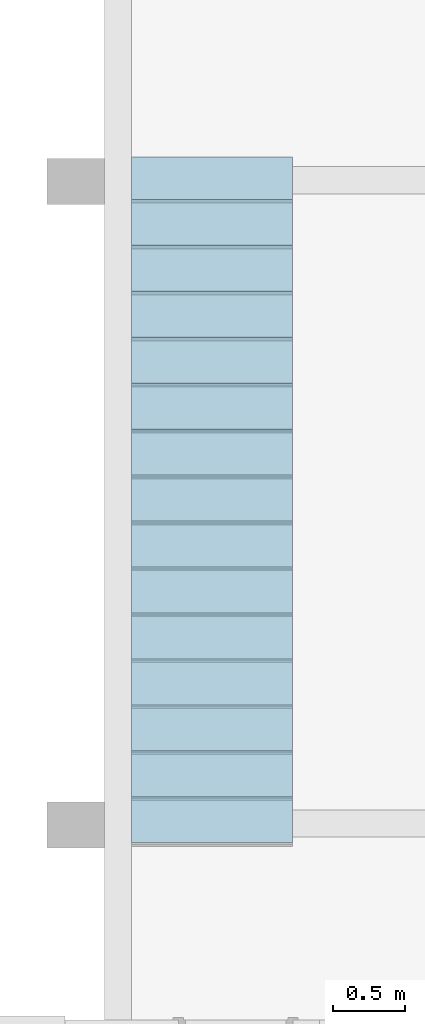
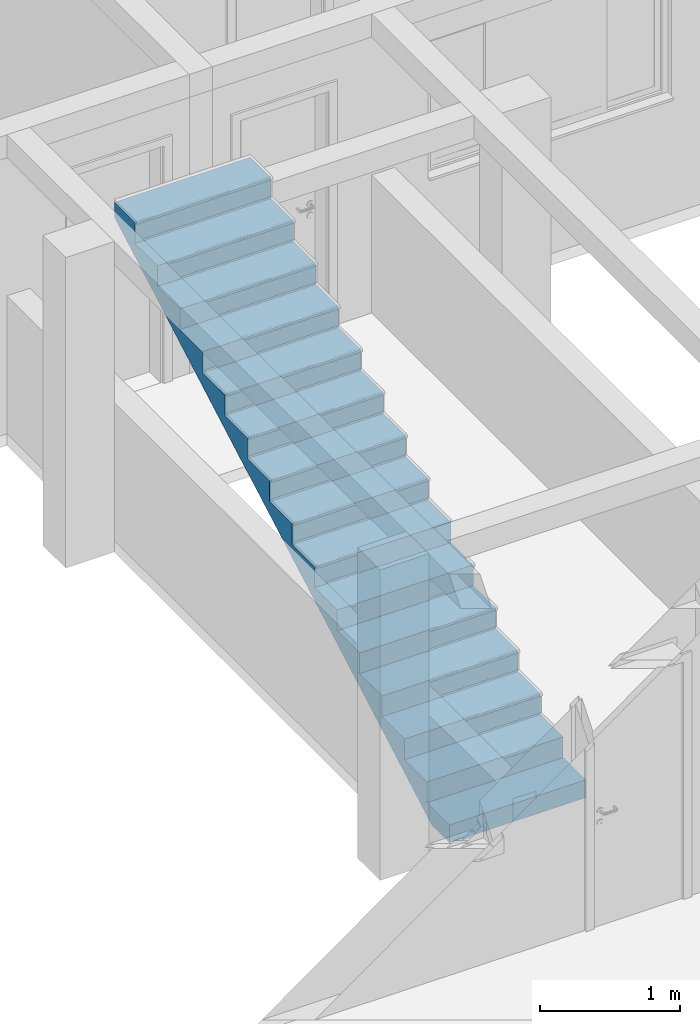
# One storey, part 43 of 43: 1 stair flight, 1 element without a shape of its own.
"""IFC2X3 building model written with IfcOpenShell, lengths in millimetres."""

from ifc_helpers import new_model, entity, si_unit, converted_unit, derived_unit, money_unit, direction, frame, origin_with_axes, place, context, subcontext, project, spatial, faceted_brep, material, type_object, element, aggregate, save


model = new_model("IFC2X3")

# Units and contexts
model_context = context("Model", 3, precision=0.01, world=origin_with_axes(), true_north=direction((0.0, 1.0)))
body_context = subcontext(model_context, "Body", "Model", "MODEL_VIEW")
ifc_project = project(units=[si_unit("LENGTHUNIT", "METRE", prefix="MILLI"), si_unit("AREAUNIT", "SQUARE_METRE"), si_unit("VOLUMEUNIT", "CUBIC_METRE"), converted_unit("PLANEANGLEUNIT", "DEGREE", entity("IfcPlaneAngleMeasure", 0.0174532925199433), si_unit("PLANEANGLEUNIT", "RADIAN"), dimensions=[0, 0, 0, 0, 0, 0, 0]), money_unit("USD"), converted_unit("TIMEUNIT", "Year", entity("IfcTimeMeasure", 31557600.0), si_unit("TIMEUNIT", "SECOND"), dimensions=[0, 0, 1, 0, 0, 0, 0]), si_unit("MASSUNIT", "GRAM", prefix="KILO"), si_unit("THERMODYNAMICTEMPERATUREUNIT", "DEGREE_CELSIUS"), si_unit("LUMINOUSINTENSITYUNIT", "LUMEN"), si_unit("ENERGYUNIT", "JOULE", prefix="MEGA"), derived_unit("THERMALCONDUCTANCEUNIT", [(si_unit("POWERUNIT", "WATT"), 1), (si_unit("LENGTHUNIT", "METRE"), -1), (si_unit("THERMODYNAMICTEMPERATUREUNIT", "KELVIN"), -1)]), derived_unit("SPECIFICHEATCAPACITYUNIT", [(si_unit("ENERGYUNIT", "JOULE"), 1), (si_unit("MASSUNIT", "GRAM", prefix="KILO"), -1), (si_unit("THERMODYNAMICTEMPERATUREUNIT", "KELVIN"), -1)]), derived_unit("MASSDENSITYUNIT", [(si_unit("MASSUNIT", "GRAM", prefix="KILO"), 1), (si_unit("VOLUMEUNIT", "CUBIC_METRE"), -1)])], contexts=[model_context])

# Site, building, storey
site_placement = place(None, origin_with_axes())
site = spatial("IfcSite", under=ifc_project, at=site_placement, Name="Local", CompositionType="ELEMENT")
building_placement = place(site_placement, origin_with_axes())
building = spatial("IfcBuilding", under=site, at=building_placement, Name="Construção", CompositionType="ELEMENT")
storey_placement = place(building_placement, origin_with_axes())
storey = spatial("IfcBuildingStorey", under=building, at=storey_placement, Name="Pavimento Tipo", CompositionType="ELEMENT", Elevation=0.0)

# Stair, stair flight
stair_placement = place(storey_placement, frame((62392.434598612, -357.5384792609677, 0.0), z_axis=(0.0, 0.0, 1.0), x_axis=(1.0, 0.0, 0.0)))
stair = element("IfcStair", 1, at=stair_placement, inside=storey, Name="NúcleoEscada - 001", ShapeType="NOTDEFINED")
ifc_material = material(Name="Concreto - Estrutural")
stair_flight_type = type_object("IfcStairFlightType", Name="IfcStairFlight", PredefinedType="NOTDEFINED")
stair_flight_placement = place(stair_placement, origin_with_axes())
stair_flight = element("IfcStairFlight", 2, at=stair_flight_placement, type_object=stair_flight_type, material=ifc_material, Name="NúcleoLance - 002", context=body_context, shape_type="Brep", body=[
    faceted_brep([(1120.0, 4640.000000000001, 2456.146501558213), (1120.0, 4720.0, 2501.146501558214), (1120.0, 4800.0, 2546.146501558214), (1120.0, 4800.0, 2675.0), (1120.0, 4505.1, 2675.0), (1120.0, 4505.1, 2495.0), (1120.0, 4185.1, 2495.0), (1120.0, 4185.1, 2315.0), (1120.0, 3865.1, 2315.0), (1120.0, 3865.1, 2135.0), (1120.0, 3545.1, 2135.0), (1120.0, 3545.1, 1955.0), (1120.0, 3225.100000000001, 1955.0), (1120.0, 3225.100000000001, 1775.0), (1120.0, 2905.1, 1775.0), (1120.0, 2905.1, 1595.0), (1120.0, 2585.1, 1595.0), (1120.0, 2585.1, 1415.0), (1120.0, 2265.1, 1415.0), (1120.0, 2265.1, 1235.0), (1120.0, 1945.1, 1235.0), (1120.0, 1945.1, 1055.0), (1120.0, 1625.1, 1055.0), (1120.0, 1625.1, 875.0), (1120.0, 1305.1, 875.0), (1120.0, 1305.1, 695.0000000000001), (1120.0, 985.1000000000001, 695.0000000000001), (1120.0, 985.1000000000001, 515.0000000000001), (1120.0, 665.0999999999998, 515.0000000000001), (1120.0, 665.0999999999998, 334.9999999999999), (1120.0, 345.1000000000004, 334.9999999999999), (1120.0, 345.1000000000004, 155.0000000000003), (1120.0, 25.10000000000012, 155.0000000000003), (1120.0, 25.10000000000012, 0.0), (1120.0, 273.517330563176, 0.0), (1120.0, 320.0000000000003, 26.14650155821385), (1120.0, 400.0000000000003, 71.14650155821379), (1120.0, 480.0, 116.1465015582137), (1120.0, 559.9999999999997, 161.1465015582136), (1120.0, 639.9999999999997, 206.1465015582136), (1120.0, 719.9999999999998, 251.1465015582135), (1120.0, 799.9999999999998, 296.1465015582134), (1120.0, 879.9999999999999, 341.1465015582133), (1120.0, 960.0, 386.1465015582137), (1120.0, 1040.0, 431.1465015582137), (1120.0, 1120.0, 476.1465015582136), (1120.0, 1200.0, 521.1465015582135), (1120.0, 1280.0, 566.1465015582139), (1120.0, 1360.0, 611.1465015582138), (1120.0, 1440.0, 656.1465015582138), (1120.0, 1520.0, 701.1465015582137), (1120.0, 1600.0, 746.1465015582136), (1120.0, 1680.0, 791.1465015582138), (1120.0, 1760.0, 836.1465015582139), (1120.0, 1840.0, 881.1465015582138), (1120.0, 1920.0, 926.1465015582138), (1120.0, 2000.0, 971.1465015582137), (1120.0, 2080.0, 1016.146501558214), (1120.0, 2160.0, 1061.146501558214), (1120.0, 2240.0, 1106.146501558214), (1120.0, 2320.0, 1151.146501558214), (1120.0, 2400.0, 1196.146501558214), (1120.0, 2480.0, 1241.146501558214), (1120.0, 2560.0, 1286.146501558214), (1120.0, 2640.0, 1331.146501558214), (1120.0, 2720.0, 1376.146501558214), (1120.0, 2800.0, 1421.146501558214), (1120.0, 2880.0, 1466.146501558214), (1120.0, 2960.0, 1511.146501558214), (1120.0, 3040.0, 1556.146501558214), (1120.0, 3120.0, 1601.146501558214), (1120.0, 3200.0, 1646.146501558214), (1120.0, 3280.000000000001, 1691.146501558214), (1120.0, 3360.0, 1736.146501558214), (1120.0, 3440.0, 1781.146501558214), (1120.0, 3520.0, 1826.146501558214), (1120.0, 3599.999999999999, 1871.146501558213), (1120.0, 3680.0, 1916.146501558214), (1120.0, 3760.0, 1961.146501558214), (1120.0, 3840.0, 2006.146501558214), (1120.0, 3920.0, 2051.146501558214), (1120.0, 4000.0, 2096.146501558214), (1120.0, 4080.0, 2141.146501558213), (1120.0, 4160.0, 2186.146501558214), (1120.0, 4240.0, 2231.146501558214), (1120.0, 4320.0, 2276.146501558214), (1120.0, 4400.0, 2321.146501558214), (1120.0, 4480.0, 2366.146501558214), (1120.0, 4560.000000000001, 2411.146501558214), (0.0, 4720.0, 2501.146501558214), (0.0, 4640.000000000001, 2456.146501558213), (0.0, 4800.0, 2546.146501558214), (0.0, 4800.0, 2675.0), (0.0, 4505.1, 2675.0), (0.0, 4505.1, 2495.0), (0.0, 4185.1, 2495.0), (0.0, 4185.1, 2315.0), (0.0, 3865.1, 2315.0), (0.0, 3865.1, 2135.0), (0.0, 3545.1, 2135.0), (0.0, 3545.1, 1955.0), (0.0, 3225.100000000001, 1955.0), (0.0, 3225.100000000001, 1775.0), (0.0, 2905.1, 1775.0), (0.0, 2905.1, 1595.0), (0.0, 2585.1, 1595.0), (0.0, 2585.1, 1415.0), (0.0, 2265.1, 1415.0), (0.0, 2265.1, 1235.0), (0.0, 1945.1, 1235.0), (0.0, 1945.1, 1055.0), (0.0, 1625.1, 1055.0), (0.0, 1625.1, 875.0), (0.0, 1305.1, 875.0), (0.0, 1305.1, 695.0000000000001), (0.0, 985.1000000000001, 695.0000000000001), (0.0, 985.1000000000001, 515.0000000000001), (0.0, 665.0999999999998, 515.0000000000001), (0.0, 665.0999999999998, 334.9999999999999), (0.0, 345.1000000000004, 334.9999999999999), (0.0, 345.1000000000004, 155.0000000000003), (0.0, 25.10000000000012, 155.0000000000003), (0.0, 25.10000000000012, 0.0), (0.0, 273.517330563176, 0.0), (0.0, 320.0000000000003, 26.14650155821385), (0.0, 400.0000000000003, 71.14650155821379), (0.0, 480.0, 116.1465015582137), (0.0, 559.9999999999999, 161.1465015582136), (0.0, 639.9999999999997, 206.1465015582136), (0.0, 719.9999999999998, 251.1465015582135), (0.0, 799.9999999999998, 296.1465015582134), (0.0, 879.9999999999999, 341.1465015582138), (0.0, 960.0, 386.1465015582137), (0.0, 1040.0, 431.1465015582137), (0.0, 1120.0, 476.1465015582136), (0.0, 1200.0, 521.1465015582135), (0.0, 1280.0, 566.1465015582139), (0.0, 1360.0, 611.1465015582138), (0.0, 1440.0, 656.1465015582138), (0.0, 1520.0, 701.1465015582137), (0.0, 1600.0, 746.1465015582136), (0.0, 1680.0, 791.1465015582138), (0.0, 1760.0, 836.1465015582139), (0.0, 1840.0, 881.1465015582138), (0.0, 1920.0, 926.1465015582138), (0.0, 2000.0, 971.1465015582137), (0.0, 2080.0, 1016.146501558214), (0.0, 2160.0, 1061.146501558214), (0.0, 2240.0, 1106.146501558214), (0.0, 2320.0, 1151.146501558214), (0.0, 2400.0, 1196.146501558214), (0.0, 2480.0, 1241.146501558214), (0.0, 2560.0, 1286.146501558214), (0.0, 2640.0, 1331.146501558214), (0.0, 2720.0, 1376.146501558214), (0.0, 2800.0, 1421.146501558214), (0.0, 2880.0, 1466.146501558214), (0.0, 2960.0, 1511.146501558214), (0.0, 3040.0, 1556.146501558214), (0.0, 3120.0, 1601.146501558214), (0.0, 3200.0, 1646.146501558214), (0.0, 3280.000000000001, 1691.146501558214), (0.0, 3360.0, 1736.146501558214), (0.0, 3440.0, 1781.146501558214), (0.0, 3520.0, 1826.146501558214), (0.0, 3599.999999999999, 1871.146501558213), (0.0, 3680.0, 1916.146501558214), (0.0, 3760.0, 1961.146501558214), (0.0, 3840.0, 2006.146501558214), (0.0, 3920.0, 2051.146501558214), (0.0, 4000.0, 2096.146501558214), (0.0, 4080.0, 2141.146501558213), (0.0, 4160.0, 2186.146501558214), (0.0, 4240.0, 2231.146501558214), (0.0, 4320.0, 2276.146501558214), (0.0, 4400.0, 2321.146501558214), (0.0, 4480.0, 2366.146501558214), (0.0, 4560.000000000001, 2411.146501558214)], [[[0, 1, 2, 3, 4, 5, 6, 7, 8, 9, 10, 11, 12, 13, 14, 15, 16, 17, 18, 19, 20, 21, 22, 23, 24, 25, 26, 27, 28, 29, 30, 31, 32, 33, 34, 35, 36, 37, 38, 39, 40, 41, 42, 43, 44, 45, 46, 47, 48, 49, 50, 51, 52, 53, 54, 55, 56, 57, 58, 59, 60, 61, 62, 63, 64, 65, 66, 67, 68, 69, 70, 71, 72, 73, 74, 75, 76, 77, 78, 79, 80, 81, 82, 83, 84, 85, 86, 87, 88]], [[89, 1, 0, 90]], [[91, 2, 1, 89]], [[3, 2, 91, 92]], [[3, 92, 93, 4]], [[93, 94, 5, 4]], [[95, 6, 5, 94]], [[95, 96, 7, 6]], [[97, 8, 7, 96]], [[97, 98, 9, 8]], [[99, 10, 9, 98]], [[99, 100, 11, 10]], [[101, 12, 11, 100]], [[101, 102, 13, 12]], [[103, 14, 13, 102]], [[103, 104, 15, 14]], [[105, 16, 15, 104]], [[105, 106, 17, 16]], [[107, 18, 17, 106]], [[107, 108, 19, 18]], [[109, 20, 19, 108]], [[109, 110, 21, 20]], [[111, 22, 21, 110]], [[111, 112, 23, 22]], [[113, 24, 23, 112]], [[113, 114, 25, 24]], [[115, 26, 25, 114]], [[115, 116, 27, 26]], [[117, 28, 27, 116]], [[117, 118, 29, 28]], [[119, 30, 29, 118]], [[119, 120, 31, 30]], [[121, 32, 31, 120]], [[122, 33, 32, 121]], [[34, 33, 122, 123]], [[124, 35, 34, 123]], [[125, 36, 35, 124]], [[126, 37, 36, 125]], [[127, 38, 37, 126]], [[128, 39, 38, 127]], [[129, 40, 39, 128]], [[130, 41, 40, 129]], [[131, 42, 41, 130]], [[132, 43, 42, 131]], [[133, 44, 43, 132]], [[134, 45, 44, 133]], [[135, 46, 45, 134]], [[136, 47, 46, 135]], [[137, 48, 47, 136]], [[138, 49, 48, 137]], [[139, 50, 49, 138]], [[140, 51, 50, 139]], [[141, 52, 51, 140]], [[142, 53, 52, 141]], [[143, 54, 53, 142]], [[144, 55, 54, 143]], [[145, 56, 55, 144]], [[146, 57, 56, 145]], [[147, 58, 57, 146]], [[148, 59, 58, 147]], [[149, 60, 59, 148]], [[150, 61, 60, 149]], [[151, 62, 61, 150]], [[152, 63, 62, 151]], [[153, 64, 63, 152]], [[154, 65, 64, 153]], [[155, 66, 65, 154]], [[156, 67, 66, 155]], [[157, 68, 67, 156]], [[158, 69, 68, 157]], [[159, 70, 69, 158]], [[160, 71, 70, 159]], [[161, 72, 71, 160]], [[162, 73, 72, 161]], [[163, 74, 73, 162]], [[164, 75, 74, 163]], [[165, 76, 75, 164]], [[166, 77, 76, 165]], [[167, 78, 77, 166]], [[168, 79, 78, 167]], [[169, 80, 79, 168]], [[170, 81, 80, 169]], [[171, 82, 81, 170]], [[172, 83, 82, 171]], [[173, 84, 83, 172]], [[174, 85, 84, 173]], [[175, 86, 85, 174]], [[176, 87, 86, 175]], [[177, 88, 87, 176]], [[90, 0, 88, 177]], [[123, 122, 121, 120, 119, 118, 117, 116, 115, 114, 113, 112, 111, 110, 109, 108, 107, 106, 105, 104, 103, 102, 101, 100, 99, 98, 97, 96, 95, 94, 93, 92, 91, 89, 90, 177, 176, 175, 174, 173, 172, 171, 170, 169, 168, 167, 166, 165, 164, 163, 162, 161, 160, 159, 158, 157, 156, 155, 154, 153, 152, 151, 150, 149, 148, 147, 146, 145, 144, 143, 142, 141, 140, 139, 138, 137, 136, 135, 134, 133, 132, 131, 130, 129, 128, 127, 126, 125, 124]]]),
])
aggregate(stair, [stair_flight])

save(model, "model.ifc")
